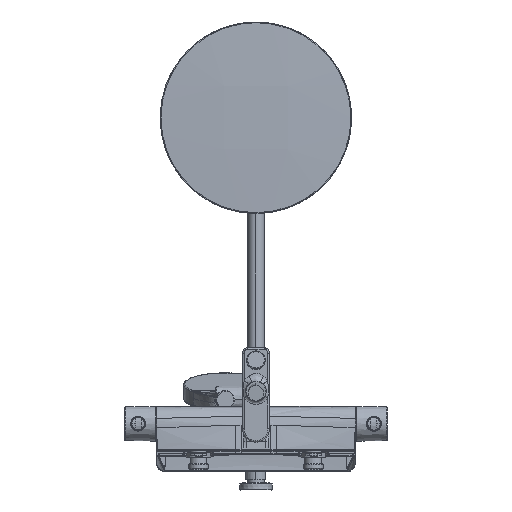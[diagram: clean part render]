
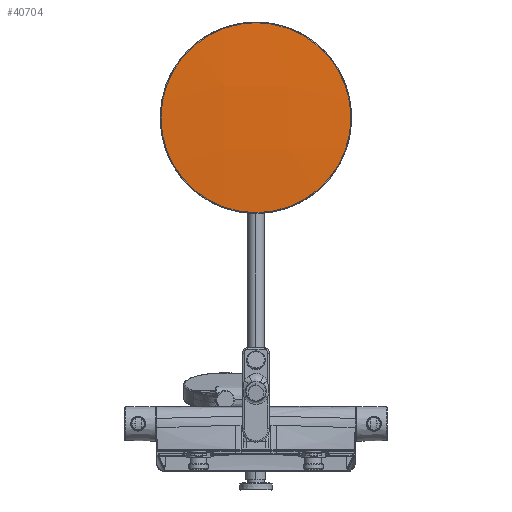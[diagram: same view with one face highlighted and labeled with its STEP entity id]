
A CAD part, front view. The second image highlights one B-rep face of the part: STEP entity #40704.
In plain terms, the highlighted free-form (B-spline) face has degree [3, 3] with [4, 4] control points.
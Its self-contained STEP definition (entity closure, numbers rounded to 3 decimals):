
#3376 = CARTESIAN_POINT ( 'NONE',  ( -125.531, 84.455, 518.902 ) ) ;
#5776 = DIRECTION ( 'NONE',  ( -1., 0., 0. ) ) ;
#6190 = DIRECTION ( 'NONE',  ( 0., -1., 0.017 ) ) ;
#7965 = CARTESIAN_POINT ( 'NONE',  ( -124.039, 84.66, 476.565 ) ) ;
#8658 = EDGE_CURVE ( 'NONE', #44740, #33560, #14097, .T. ) ;
#10985 =( BOUNDED_SURFACE ( )  B_SPLINE_SURFACE ( 3, 3, ( 
 ( #60826, #54986, #14460, #65971 ),
 ( #55200, #29185, #66196, #50689 ),
 ( #45282, #35065, #24178, #65298 ),
 ( #40309, #3376, #65526, #19633 ) ),
 .UNSPECIFIED., .F., .F., .T. ) 
 B_SPLINE_SURFACE_WITH_KNOTS ( ( 4, 4 ),
 ( 4, 4 ),
 ( 0., 1. ),
 ( 0., 1. ),
 .UNSPECIFIED. ) 
 GEOMETRIC_REPRESENTATION_ITEM ( )  RATIONAL_B_SPLINE_SURFACE ( (
 ( 1., 0.999, 0.999, 1.),
 ( 0.999, 0.998, 0.998, 0.999),
 ( 0.999, 0.998, 0.998, 0.999),
 ( 1., 0.999, 0.999, 1.) ) ) 
 REPRESENTATION_ITEM ( '' )  SURFACE ( )  );
#12464 = CIRCLE ( 'NONE', #18674, 124.039 ) ;
#14097 = CIRCLE ( 'NONE', #36282, 124.039 ) ;
#14460 = CARTESIAN_POINT ( 'NONE',  ( 126.279, 83.015, 434.795 ) ) ;
#16401 = ORIENTED_EDGE ( 'NONE', *, *, #8658, .T. ) ;
#16601 = CARTESIAN_POINT ( 'NONE',  ( 0., 84.66, 476.565 ) ) ;
#16617 = DIRECTION ( 'NONE',  ( 0., -1., 0.017 ) ) ;
#18674 = AXIS2_PLACEMENT_3D ( 'NONE', #36810, #16617, #5776 ) ;
#19633 = CARTESIAN_POINT ( 'NONE',  ( -125.531, 85.578, 350.715 ) ) ;
#22647 = CARTESIAN_POINT ( 'NONE',  ( 124.039, 84.66, 476.565 ) ) ;
#23635 = ORIENTED_EDGE ( 'NONE', *, *, #53816, .T. ) ;
#24178 = CARTESIAN_POINT ( 'NONE',  ( -41.627, 78.929, 434.801 ) ) ;
#29185 = CARTESIAN_POINT ( 'NONE',  ( 42.375, 80.421, 519.038 ) ) ;
#31795 = DIRECTION ( 'NONE',  ( -1., 0., 0. ) ) ;
#33560 = VERTEX_POINT ( 'NONE', #7965 ) ;
#35065 = CARTESIAN_POINT ( 'NONE',  ( -41.627, 80.408, 519.038 ) ) ;
#36282 = AXIS2_PLACEMENT_3D ( 'NONE', #16601, #6190, #31795 ) ;
#36810 = CARTESIAN_POINT ( 'NONE',  ( 0., 84.66, 476.565 ) ) ;
#40309 = CARTESIAN_POINT ( 'NONE',  ( -125.531, 90.005, 602.838 ) ) ;
#40704 = ADVANCED_FACE ( 'NONE', ( #44749 ), #10985, .T. ) ;
#40730 = EDGE_LOOP ( 'NONE', ( #23635, #16401 ) ) ;
#44740 = VERTEX_POINT ( 'NONE', #22647 ) ;
#44749 = FACE_OUTER_BOUND ( 'NONE', #40730, .T. ) ;
#45282 = CARTESIAN_POINT ( 'NONE',  ( -41.627, 85.966, 603.105 ) ) ;
#50689 = CARTESIAN_POINT ( 'NONE',  ( 42.375, 81.545, 350.591 ) ) ;
#53816 = EDGE_CURVE ( 'NONE', #33560, #44740, #12464, .T. ) ;
#54986 = CARTESIAN_POINT ( 'NONE',  ( 126.279, 84.491, 518.901 ) ) ;
#55200 = CARTESIAN_POINT ( 'NONE',  ( 42.375, 85.979, 603.105 ) ) ;
#60826 = CARTESIAN_POINT ( 'NONE',  ( 126.279, 90.041, 602.836 ) ) ;
#65298 = CARTESIAN_POINT ( 'NONE',  ( -41.627, 81.533, 350.59 ) ) ;
#65526 = CARTESIAN_POINT ( 'NONE',  ( -125.531, 82.978, 434.795 ) ) ;
#65971 = CARTESIAN_POINT ( 'NONE',  ( 126.279, 85.614, 350.716 ) ) ;
#66196 = CARTESIAN_POINT ( 'NONE',  ( 42.375, 78.942, 434.801 ) ) ;
